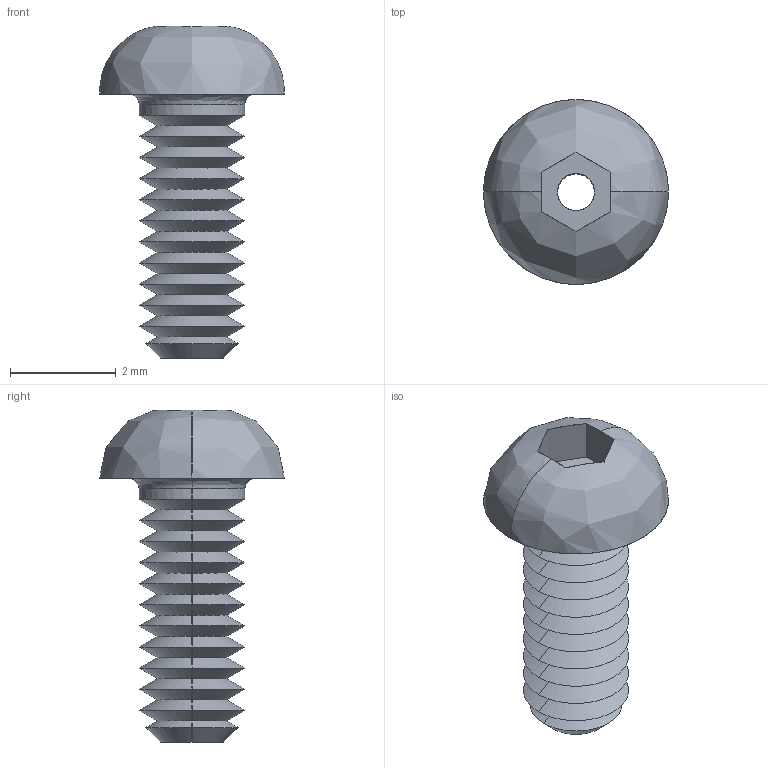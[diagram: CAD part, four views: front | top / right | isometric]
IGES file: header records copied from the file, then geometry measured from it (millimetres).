
Start section: SolidWorks IGES file using analytic representation for surfaces
Global section: file name: C:\Users\liam_\OneDrive\Documents\WORK\Work for WixRoyd\Job Files\J-00019 - Matt Davis CAD Checking\04. CAD Drawings\automotion20190605\P0094_v2\P0094_v2_20190712_IGES\P0094.020-005-A2.igs; native system: SolidWorks 2017; preprocessor: SolidWorks 2017; author: liam_; date: 190712.174913; units: millimetre
Bounding box: 3.5 x 3.5 x 6.29 mm (x, y, z)
Surface area: 88.4 mm2 (no closed solid volume)
Topology: 0 solids, 0 shells, 63 faces, 386 edges, 386 vertices
Faces by surface type: revolution 50, bspline 13
